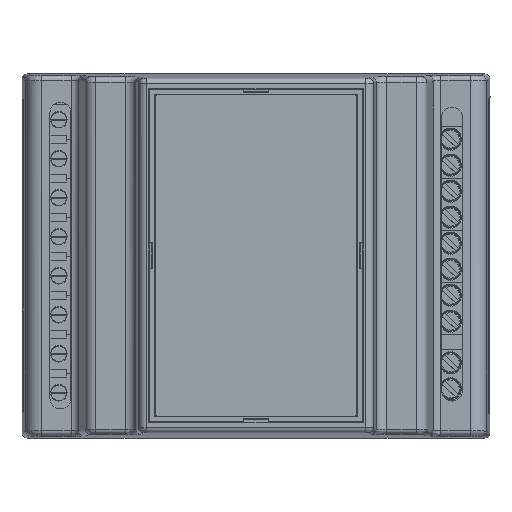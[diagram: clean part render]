
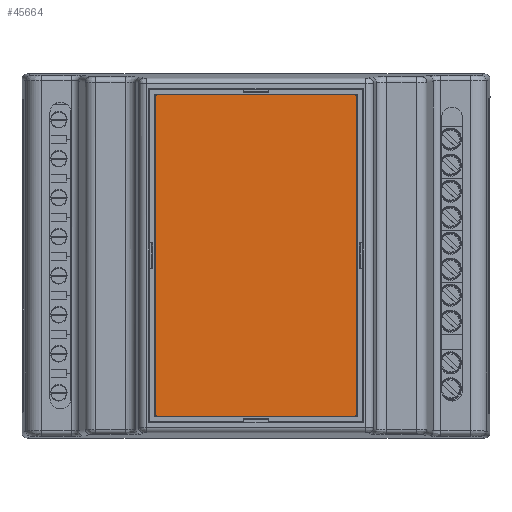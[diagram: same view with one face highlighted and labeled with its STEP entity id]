
A CAD part, top view. The second image highlights one B-rep face of the part: STEP entity #45664.
In plain terms, the highlighted planar face has unit normal (0, 0, 1).
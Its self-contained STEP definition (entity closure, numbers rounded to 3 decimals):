
#737=CIRCLE('',#48452,0.5);
#739=CIRCLE('',#48456,0.5);
#740=CIRCLE('',#48457,0.5);
#741=CIRCLE('',#48458,0.5);
#5612=PLANE('',#48455);
#7734=FACE_OUTER_BOUND('',#10396,.T.);
#10396=EDGE_LOOP('',(#39606,#39607,#39608,#39609,#39610,#39611,#39612,#39613));
#14809=LINE('',#75119,#18988);
#14812=LINE('',#75125,#18991);
#14813=LINE('',#75129,#18992);
#14814=LINE('',#75133,#18993);
#18988=VECTOR('',#56246,10.);
#18991=VECTOR('',#56251,10.);
#18992=VECTOR('',#56254,10.);
#18993=VECTOR('',#56257,10.);
#23363=VERTEX_POINT('',#75109);
#23364=VERTEX_POINT('',#75110);
#23367=VERTEX_POINT('',#75118);
#23369=VERTEX_POINT('',#75124);
#23370=VERTEX_POINT('',#75126);
#23371=VERTEX_POINT('',#75128);
#23372=VERTEX_POINT('',#75130);
#23373=VERTEX_POINT('',#75132);
#29081=EDGE_CURVE('',#23363,#23364,#737,.T.);
#29085=EDGE_CURVE('',#23367,#23364,#14809,.T.);
#29088=EDGE_CURVE('',#23363,#23369,#14812,.T.);
#29089=EDGE_CURVE('',#23370,#23369,#739,.T.);
#29090=EDGE_CURVE('',#23370,#23371,#14813,.T.);
#29091=EDGE_CURVE('',#23372,#23371,#740,.T.);
#29092=EDGE_CURVE('',#23372,#23373,#14814,.T.);
#29093=EDGE_CURVE('',#23367,#23373,#741,.T.);
#39606=ORIENTED_EDGE('',*,*,#29081,.F.);
#39607=ORIENTED_EDGE('',*,*,#29088,.T.);
#39608=ORIENTED_EDGE('',*,*,#29089,.F.);
#39609=ORIENTED_EDGE('',*,*,#29090,.T.);
#39610=ORIENTED_EDGE('',*,*,#29091,.F.);
#39611=ORIENTED_EDGE('',*,*,#29092,.T.);
#39612=ORIENTED_EDGE('',*,*,#29093,.F.);
#39613=ORIENTED_EDGE('',*,*,#29085,.T.);
#45664=ADVANCED_FACE('',(#7734),#5612,.T.);
#48452=AXIS2_PLACEMENT_3D('',#75111,#56238,#56239);
#48455=AXIS2_PLACEMENT_3D('',#75123,#56249,#56250);
#48456=AXIS2_PLACEMENT_3D('',#75127,#56252,#56253);
#48457=AXIS2_PLACEMENT_3D('',#75131,#56255,#56256);
#48458=AXIS2_PLACEMENT_3D('',#75134,#56258,#56259);
#56238=DIRECTION('center_axis',(0.,0.,-1.));
#56239=DIRECTION('ref_axis',(-0.707,0.707,0.));
#56246=DIRECTION('',(-1.,0.,0.));
#56249=DIRECTION('center_axis',(0.,0.,1.));
#56250=DIRECTION('ref_axis',(1.,0.,0.));
#56251=DIRECTION('',(0.,-1.,0.));
#56252=DIRECTION('center_axis',(0.,0.,-1.));
#56253=DIRECTION('ref_axis',(-0.707,-0.707,0.));
#56254=DIRECTION('',(1.,0.,0.));
#56255=DIRECTION('center_axis',(0.,0.,-1.));
#56256=DIRECTION('ref_axis',(0.707,-0.707,0.));
#56257=DIRECTION('',(0.,1.,0.));
#56258=DIRECTION('center_axis',(0.,0.,-1.));
#56259=DIRECTION('ref_axis',(0.707,0.707,0.));
#75109=CARTESIAN_POINT('',(29.661,68.325,0.4));
#75110=CARTESIAN_POINT('',(30.161,68.825,0.4));
#75111=CARTESIAN_POINT('Origin',(30.161,68.325,0.4));
#75118=CARTESIAN_POINT('',(67.926,68.825,0.4));
#75119=CARTESIAN_POINT('',(68.426,68.825,0.4));
#75123=CARTESIAN_POINT('Origin',(49.043,37.943,0.4));
#75124=CARTESIAN_POINT('',(29.661,7.56,0.4));
#75125=CARTESIAN_POINT('',(29.661,68.825,0.4));
#75126=CARTESIAN_POINT('',(30.161,7.06,0.4));
#75127=CARTESIAN_POINT('Origin',(30.161,7.56,0.4));
#75128=CARTESIAN_POINT('',(67.926,7.06,0.4));
#75129=CARTESIAN_POINT('',(29.661,7.06,0.4));
#75130=CARTESIAN_POINT('',(68.426,7.56,0.4));
#75131=CARTESIAN_POINT('Origin',(67.926,7.56,0.4));
#75132=CARTESIAN_POINT('',(68.426,68.325,0.4));
#75133=CARTESIAN_POINT('',(68.426,7.06,0.4));
#75134=CARTESIAN_POINT('Origin',(67.926,68.325,0.4));
